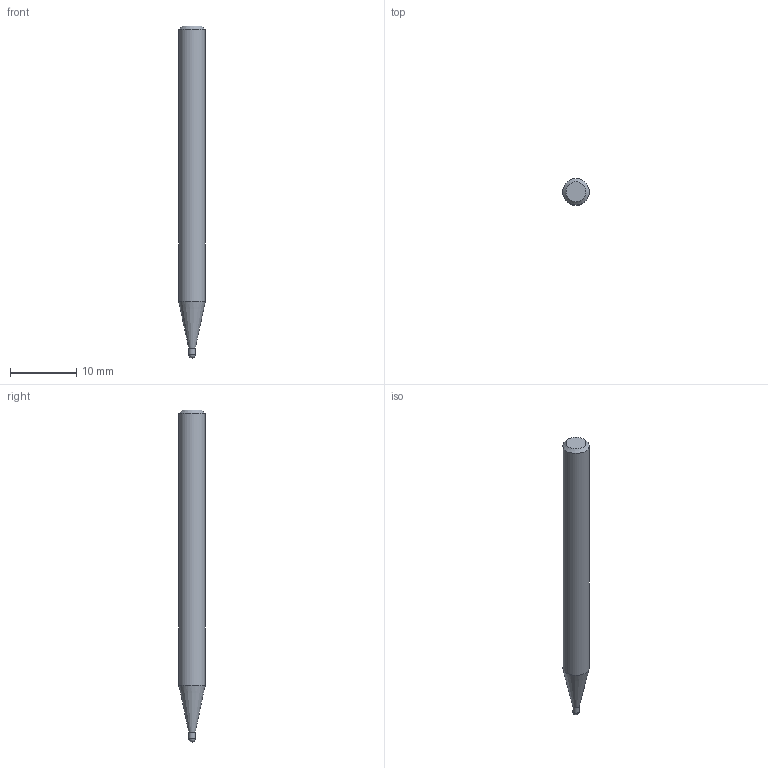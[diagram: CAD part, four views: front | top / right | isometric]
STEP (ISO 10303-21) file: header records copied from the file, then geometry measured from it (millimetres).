
FILE_DESCRIPTION((''),'2;1');
FILE_NAME('C:\Users\nsx150\AppData\Local\Temp\Mastercam 2021\98T1Q6BTT1\TEMP.step','2021-10-21T14:55:22',(''),(''),'STEP Write','Mastercam 2021 ... CNC Software, Inc.','');
FILE_SCHEMA(('AUTOMOTIVE_DESIGN'));
Length unit declared in the file: millimetre
Products named in the file (1): None
Bounding box: 4 x 4 x 50 mm (x, y, z)
Volume: 559.2 mm3; surface area: 592.3 mm2
Topology: 2 solids, 2 shells, 8 faces, 12 edges, 7 vertices
Faces by surface type: plane 3, cylinder 2, cone 2, sphere 1
Full cylindrical faces by diameter (mm): 1 x1, 4 x1
Entity records: 190 total; most frequent: DIRECTION 32, CARTESIAN_POINT 22, AXIS2_PLACEMENT_3D 16, ORIENTED_EDGE 12, EDGE_LOOP 12, STYLED_ITEM 11, ADVANCED_FACE 8, VERTEX_POINT 6
